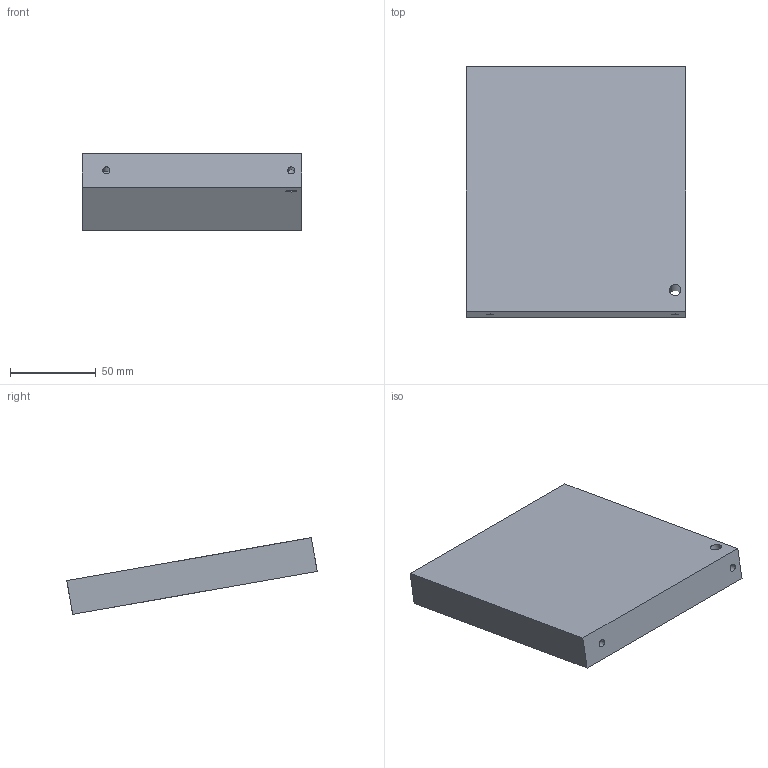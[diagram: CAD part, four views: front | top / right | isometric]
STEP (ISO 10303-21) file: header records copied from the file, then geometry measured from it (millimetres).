
FILE_DESCRIPTION(('golf model'),'2;1');
FILE_NAME('golf','',(''),(''),'golf_step_io','golf','');
FILE_SCHEMA(('AUTOMOTIVE_DESIGN { 1 0 10303 214 1 1 1 1 }'));
Length unit declared in the file: millimetre
Products named in the file (2): ASSEMBLY; atc_rack.stand_1
Assembly tree (1 placements, depth 2):
  ASSEMBLY
    atc_rack.stand_1
Bounding box: 128 x 146.26 x 44.87 mm (x, y, z)
Volume: 369302.5 mm3; surface area: 49356.7 mm2
Topology: 1 solids, 1 shells, 14 faces, 28 edges, 19 vertices
Faces by surface type: plane 9, cylinder 5
Full cylindrical faces by diameter (mm): 4.2 x2, 5 x2, 6.6 x1
Entity records: 633 total; most frequent: CARTESIAN_POINT 314, DIRECTION 62, ORIENTED_EDGE 44, EDGE_LOOP 26, AXIS2_PLACEMENT_3D 25, EDGE_CURVE 22, FACE_BOUND 22, VERTEX_POINT 18
